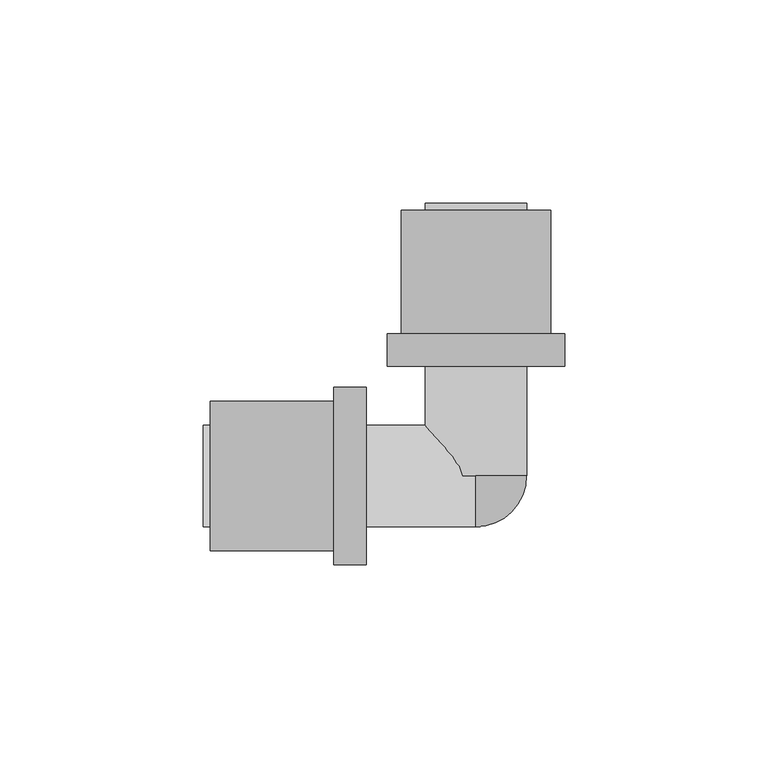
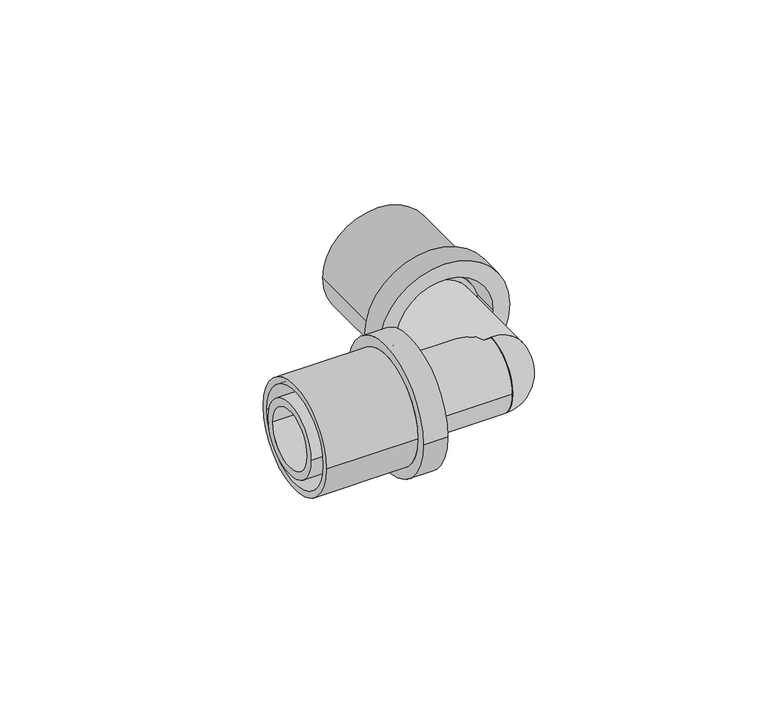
"""IFC4 building model written with IfcOpenShell, lengths in millimetres: pipe fitting geometry, FASTLOC_Corner EX+ : FSL C EX+ AT."""

import ifcopenshell
import ifcopenshell.guid

model = None  # the IFC model being written
_history = None  # IfcOwnerHistory: only IFC2X3 demands one
_inside = {}  # id of a spatial element -> (the spatial element, [elements in it])
_under = {}  # id of a project, library or spatial element -> (it, [spatial elements below it])
_declared = {}  # id of a project -> (the project, [libraries it declares])
_typed = {}  # id of a type object -> (the type object, [elements of that type])
_made_of = {}  # id of a material, layer set ... -> (it, [elements and type objects made of it])


def new_model(schema):
    """Start an empty IFC model of exactly this schema.

    Asked for "IFC4X3", IfcOpenShell would pick the latest addendum, in which some entities
    have other attributes; the version numbers below select the first issue.
    IFC2X3 requires an IfcOwnerHistory on every rooted entity: one is made here for all.
    """
    global model, _history
    if schema == "IFC4X3":
        model = ifcopenshell.file(schema_version=(4, 3, 0, 0))
    else:
        model = ifcopenshell.file(schema=schema)
    _inside.clear()
    _under.clear()
    _declared.clear()
    _typed.clear()
    _made_of.clear()
    _history = None
    if model.schema == "IFC2X3":
        org = make("IfcOrganization", Name="unknown")
        user = make(
            "IfcPersonAndOrganization",
            ThePerson=make("IfcPerson", FamilyName="unknown"),
            TheOrganization=org,
        )
        app = make(
            "IfcApplication",
            ApplicationDeveloper=org,
            Version="unknown",
            ApplicationFullName="unknown",
            ApplicationIdentifier="unknown",
        )
        _history = make(
            "IfcOwnerHistory",
            OwningUser=user,
            OwningApplication=app,
            ChangeAction="ADDED",
            CreationDate=0,
        )
    return model


def make(cls, **values):
    """One entity of the class cls with the attributes given. An attribute that is None is left unset."""
    return model.create_entity(
        cls, **{name: value for name, value in values.items() if value is not None}
    )


def rooted(cls, **values):
    """An entity with a GlobalId (a new one), such as an element, a storey or a relation."""
    return make(cls, GlobalId=ifcopenshell.guid.new(), OwnerHistory=_history, **values)


def si_unit(unit_type, name, prefix=None):
    """IfcSIUnit, for example si_unit("LENGTHUNIT", "METRE", prefix="MILLI")."""
    return make("IfcSIUnit", UnitType=unit_type, Prefix=prefix, Name=name)


def assignment(units):
    """IfcUnitAssignment: the units of a project."""
    return None if units is None else make("IfcUnitAssignment", Units=units)


def point(xyz):
    """IfcCartesianPoint."""
    return None if xyz is None else make("IfcCartesianPoint", Coordinates=xyz)


def direction(xyz):
    """IfcDirection."""
    return None if xyz is None else make("IfcDirection", DirectionRatios=xyz)


def frame(location, z_axis=None, x_axis=None):
    """IfcAxis2Placement3D, a coordinate frame: its origin and axes. An axis left out is left unset."""
    return make(
        "IfcAxis2Placement3D",
        Location=point(location),
        Axis=direction(z_axis),
        RefDirection=direction(x_axis),
    )


def origin():
    """The frame at (0, 0, 0) with its axes left unset."""
    return frame((0.0, 0.0, 0.0))


def place(relative_to, where):
    """IfcLocalPlacement: puts the frame where relative to a parent placement (None: the world)."""
    return make(
        "IfcLocalPlacement", PlacementRelTo=relative_to, RelativePlacement=where
    )


def context(
    kind, dimensions, precision=None, world=None, true_north=None, identifier=None
):
    """IfcGeometricRepresentationContext, for example the 3D "Model" context."""
    return make(
        "IfcGeometricRepresentationContext",
        ContextIdentifier=identifier,
        ContextType=kind,
        CoordinateSpaceDimension=dimensions,
        Precision=precision,
        WorldCoordinateSystem=world,
        TrueNorth=true_north,
    )


def project(units=None, contexts=None):
    """IfcProject with its units and contexts."""
    return rooted(
        "IfcProject",
        Name="project",
        RepresentationContexts=contexts,
        UnitsInContext=assignment(units),
    )


def spatial(cls, under=None, at=None, **own):
    """A site, building, storey or space (cls), placed at a placement, below another one or the project."""
    s = rooted(cls, ObjectPlacement=at, **own)
    if under is not None:
        _under.setdefault(under.id(), (under, []))[1].append(s)
    return s


def polyline(points):
    """IfcPolyline through the points."""
    return make("IfcPolyline", Points=[point(p) for p in points])


def circle_curve(where, radius):
    """IfcCircle in the frame where."""
    return make("IfcCircle", Position=where, Radius=radius)


def ellipse_curve(where, semi_axis1, semi_axis2):
    """IfcEllipse in the frame where."""
    return make(
        "IfcEllipse", Position=where, SemiAxis1=semi_axis1, SemiAxis2=semi_axis2
    )


def trimmed(basis, trim1, trim2, sense, master):
    """IfcTrimmedCurve: the piece of a basis curve between two trims."""
    return make(
        "IfcTrimmedCurve",
        BasisCurve=basis,
        Trim1=trim1,
        Trim2=trim2,
        SenseAgreement=sense,
        MasterRepresentation=master,
    )


def shape(context_of_items, identifier, shape_type, items):
    """IfcShapeRepresentation: the items that make up one representation, for example the "Body"."""
    return make(
        "IfcShapeRepresentation",
        ContextOfItems=context_of_items,
        RepresentationIdentifier=identifier,
        RepresentationType=shape_type,
        Items=items,
    )


def source(mapping_origin, context_of_items, identifier, shape_type, items):
    """IfcRepresentationMap: a shape defined once, which mapped items show again and again."""
    return make(
        "IfcRepresentationMap",
        MappingOrigin=mapping_origin,
        MappedRepresentation=shape(context_of_items, identifier, shape_type, items),
    )


def transform(
    local_origin,
    x_axis=None,
    y_axis=None,
    z_axis=None,
    scale=None,
    scale2=None,
    scale3=None,
    uniform=True,
):
    """IfcCartesianTransformationOperator3D, or its non-uniform kind. x_axis, y_axis, z_axis: its Axis1, 2, 3."""
    if uniform:
        return make(
            "IfcCartesianTransformationOperator3D",
            Axis1=direction(x_axis),
            Axis2=direction(y_axis),
            LocalOrigin=point(local_origin),
            Scale=scale,
            Axis3=direction(z_axis),
        )
    return make(
        "IfcCartesianTransformationOperator3DnonUniform",
        Axis1=direction(x_axis),
        Axis2=direction(y_axis),
        LocalOrigin=point(local_origin),
        Scale=scale,
        Axis3=direction(z_axis),
        Scale2=scale2,
        Scale3=scale3,
    )


def mapped(mapping_source, mapping_target):
    """IfcMappedItem: shows the shape of a source again, moved by a transform."""
    return make(
        "IfcMappedItem", MappingSource=mapping_source, MappingTarget=mapping_target
    )


def made_of(thing, what):
    """Note that an element or type object is made of a material, layer set ...; save() writes the relation."""
    if what is not None:
        _made_of.setdefault(what.id(), (what, []))[1].append(thing)
    return thing


def element(
    cls,
    number,
    at=None,
    inside=None,
    cuts=None,
    type_object=None,
    material=None,
    context=None,
    identifier="Body",
    shape_type=None,
    held_by="IfcProductDefinitionShape",
    body=None,
    shapes=None,
    **own,
):
    """One element of the class cls, such as IfcWall. Its Tag is "e" and its number.

    at: its placement. inside: the storey or other place that contains it. cuts: it is an
    opening in that element (IfcRelVoidsElement). A single representation is given by context,
    identifier, shape_type and body (its items); several are given by shapes. held_by: the class
    of the entity that holds the representations. save() writes the other relations.
    """
    e = rooted(cls, Tag="e%d" % number, ObjectPlacement=at, **own)
    if body is not None:
        shapes = [shape(context, identifier, shape_type, body)]
    if shapes is not None:
        e.Representation = make(held_by, Representations=shapes)
    if inside is not None:
        _inside.setdefault(inside.id(), (inside, []))[1].append(e)
    if cuts is not None:
        rooted(
            "IfcRelVoidsElement", RelatingBuildingElement=cuts, RelatedOpeningElement=e
        )
    if type_object is not None:
        _typed.setdefault(type_object.id(), (type_object, []))[1].append(e)
    return made_of(e, material)


def aggregate(whole, parts):
    """IfcRelAggregates: a whole, such as a stair, and the parts it consists of."""
    return rooted("IfcRelAggregates", RelatingObject=whole, RelatedObjects=parts)


def save(model, path):
    """Write the relations noted so far, then the file.

    IfcRelAggregates (storeys below a building ...), IfcRelContainedInSpatialStructure (elements
    in a storey), IfcRelDefinesByType, IfcRelAssociatesMaterial and IfcRelDeclares: one each for
    every whole, place, type object, material and project.
    """
    for whole, parts in _under.values():
        aggregate(whole, parts)
    for where, things in _inside.values():
        rooted(
            "IfcRelContainedInSpatialStructure",
            RelatedElements=things,
            RelatingStructure=where,
        )
    for kind, things in _typed.values():
        rooted("IfcRelDefinesByType", RelatedObjects=things, RelatingType=kind)
    for what, things in _made_of.values():
        rooted("IfcRelAssociatesMaterial", RelatedObjects=things, RelatingMaterial=what)
    for by, libraries in _declared.values():
        rooted("IfcRelDeclares", RelatingContext=by, RelatedDefinitions=libraries)
    model.write(path)


def plane_surface(at):
    """IfcPlane: the flat surface through the origin of the frame at, square to its z axis."""
    return make("IfcPlane", Position=at)


def cylinder_surface(at, radius):
    """IfcCylindricalSurface: all points at the distance radius from the z axis of the frame at."""
    return make("IfcCylindricalSurface", Position=at, Radius=radius)


def revolved_surface(curve, axis_point, axis_direction):
    """IfcSurfaceOfRevolution: the curve turned about the line through axis_point along axis_direction."""
    return make(
        "IfcSurfaceOfRevolution",
        SweptCurve=make("IfcArbitraryOpenProfileDef", ProfileType="CURVE", Curve=curve),
        AxisPosition=make("IfcAxis1Placement", Location=point(axis_point), Axis=direction(axis_direction)),
    )


def advanced_brep(points, edges, surfaces, faces):
    """IfcAdvancedBrep: a solid bounded by faces that lie on surfaces and meet in shared edges.

    An edge is (start, end): straight between two places in points (the first is 0);
    or (start, end, curve); or (start, end, curve, False) where it runs against its curve.
    A face is (place in surfaces, loops), or (place, loops, False) where it looks against
    its surface's normal. A loop lists edges by number (the first is 1), with a minus sign
    where the edge is run from its end to its start. The first loop is the outer one.
    """
    corners = [point(p) for p in points]
    vertices = [make("IfcVertexPoint", VertexGeometry=c) for c in corners]
    made = []
    for start, end, *more in edges:
        made.append(
            make(
                "IfcEdgeCurve",
                EdgeStart=vertices[start],
                EdgeEnd=vertices[end],
                EdgeGeometry=more[0] if more else make("IfcPolyline", Points=[corners[start], corners[end]]),
                SameSense=more[1] if len(more) > 1 else True,
            )
        )
    hull = []
    for where, loops, *sense in faces:
        bounds = []
        for j, loop in enumerate(loops):
            ring = [make("IfcOrientedEdge", EdgeElement=made[abs(k) - 1], Orientation=k > 0) for k in loop]
            bounds.append(
                make(
                    "IfcFaceOuterBound" if j == 0 else "IfcFaceBound",
                    Bound=make("IfcEdgeLoop", EdgeList=ring),
                    Orientation=True,
                )
            )
        hull.append(make("IfcAdvancedFace", Bounds=bounds, FaceSurface=surfaces[where], SameSense=sense[0] if sense else True))
    return make("IfcAdvancedBrep", Outer=make("IfcClosedShell", CfsFaces=hull))


def pipe_fitting_a2f8d1bd(model_context):
    return source(origin(), model_context, "Body", "AdvancedBrep", [
        advanced_brep(
        [(-21.8, 35.0, 0.0), (21.8, 35.0, 0.0), (21.8, 27.0, 0.0), (-21.8, 27.0, 0.0), (-18.35, 65.3, 0.0), (18.35, 65.3, 0.0), (18.35, 35.0, 0.0), (-18.35, 35.0, 0.0), (-16.2, 27.0, 0.0), (16.2, 27.0, 0.0), (16.2, 65.3, 0.0), (-16.2, 65.3, 0.0)],
        [
            (0, 1, circle_curve(frame((0.0, 35.0, 0.0), z_axis=(0.0, -1.0, 0.0), x_axis=(1.0, 0.0, 0.0)), 21.8)),
            (1, 2),
            (2, 3, circle_curve(frame((0.0, 27.0, 0.0), z_axis=(0.0, 1.0, 0.0), x_axis=(1.0, 0.0, 0.0)), 21.8)),
            (3, 0),
            (4, 5, circle_curve(frame((0.0, 65.3, 0.0), z_axis=(0.0, -1.0, 0.0), x_axis=(1.0, 0.0, 0.0)), 18.35)),
            (5, 6),
            (6, 7, circle_curve(frame((0.0, 35.0, 0.0), z_axis=(0.0, 1.0, 0.0), x_axis=(1.0, 0.0, 0.0)), 18.35)),
            (7, 4),
            (8, 9, circle_curve(frame((0.0, 27.0, 0.0), z_axis=(0.0, -1.0, 0.0), x_axis=(1.0, 0.0, 0.0)), 16.2)),
            (9, 10),
            (10, 11, circle_curve(frame((0.0, 65.3, 0.0), z_axis=(0.0, 1.0, 0.0), x_axis=(1.0, 0.0, 0.0)), 16.2)),
            (11, 8),
            (1, 0, circle_curve(frame((0.0, 35.0, 0.0), z_axis=(0.0, -1.0, 0.0), x_axis=(-1.0, 0.0, 0.0)), 21.8)),
            (3, 2, circle_curve(frame((0.0, 27.0, 0.0), z_axis=(0.0, 1.0, 0.0), x_axis=(-1.0, 0.0, 0.0)), 21.8)),
            (6, 7, circle_curve(frame((0.0, 35.0, 0.0), z_axis=(0.0, -1.0, 0.0), x_axis=(-1.0, 0.0, 0.0)), 18.35)),
            (5, 4, circle_curve(frame((0.0, 65.3, 0.0), z_axis=(0.0, -1.0, 0.0), x_axis=(-1.0, 0.0, 0.0)), 18.35)),
            (10, 11, circle_curve(frame((0.0, 65.3, 0.0), z_axis=(0.0, -1.0, 0.0), x_axis=(-1.0, 0.0, 0.0)), 16.2)),
            (9, 8, circle_curve(frame((0.0, 27.0, 0.0), z_axis=(0.0, -1.0, 0.0), x_axis=(-1.0, 0.0, 0.0)), 16.2)),
        ],
        [
            cylinder_surface(frame((0.0, 27.0, 0.0), z_axis=(0.0, 1.0, 0.0), x_axis=(1.0, 0.0, 0.0)), 21.8),
            cylinder_surface(frame((0.0, 27.0, 0.0), z_axis=(0.0, 1.0, 0.0), x_axis=(1.0, 0.0, 0.0)), 18.35),
            revolved_surface(polyline([(16.2, 65.3, 0.0), (16.2, 27.0, 0.0)]), (0.0, 27.0, 0.0), (0.0, 1.0, 0.0)),
            cylinder_surface(frame((0.0, 27.0, 0.0), z_axis=(0.0, 1.0, 0.0), x_axis=(-1.0, 0.0, 0.0)), 21.8),
            plane_surface(frame((0.0, 35.0, 0.0), z_axis=(0.0, 1.0, 0.0), x_axis=(-1.0, 0.0, 0.0))),
            cylinder_surface(frame((0.0, 27.0, 0.0), z_axis=(0.0, 1.0, 0.0), x_axis=(-1.0, 0.0, 0.0)), 18.35),
            plane_surface(frame((0.0, 65.3, 0.0), z_axis=(0.0, 1.0, 0.0), x_axis=(-1.0, 0.0, 0.0))),
            revolved_surface(polyline([(-16.2, 65.3, 0.0), (-16.2, 27.0, 0.0)]), (0.0, 27.0, 0.0), (0.0, 1.0, 0.0)),
            plane_surface(frame((0.0, 27.0, 0.0), z_axis=(0.0, -1.0, 0.0), x_axis=(-1.0, 0.0, 0.0))),
        ],
        [
            (0, [[1, 2, 3, 4]]),
            (1, [[5, 6, 7, 8]]),
            (2, [[9, 10, 11, 12]]),
            (3, [[13, -4, 14, -2]]),
            (4, [[-13, -1], [15, -7]]),
            (5, [[16, -8, -15, -6]]),
            (6, [[-16, -5], [17, -11]]),
            (7, [[18, -12, -17, -10]]),
            (8, [[-14, -3], [-18, -9]]),
        ],
    ),
        advanced_brep(
        [(-35.0, -21.8, 0.0), (-35.0, 21.8, 0.0), (-27.0, 21.8, 0.0), (-27.0, -21.8, 0.0), (-65.3, -18.35, 0.0), (-65.3, 18.35, 0.0), (-35.0, 18.35, 0.0), (-35.0, -18.35, 0.0), (-27.0, -16.2, 0.0), (-27.0, 16.2, 0.0), (-65.3, 16.2, 0.0), (-65.3, -16.2, 0.0)],
        [
            (0, 1, circle_curve(frame((-35.0, 0.0, 0.0), z_axis=(1.0, 0.0, 0.0), x_axis=(0.0, 1.0, 0.0)), 21.8)),
            (1, 2),
            (2, 3, circle_curve(frame((-27.0, 0.0, 0.0), z_axis=(-1.0, 0.0, 0.0), x_axis=(0.0, 1.0, 0.0)), 21.8)),
            (3, 0),
            (4, 5, circle_curve(frame((-65.3, 0.0, 0.0), z_axis=(1.0, 0.0, 0.0), x_axis=(0.0, 1.0, 0.0)), 18.35)),
            (5, 6),
            (6, 7, circle_curve(frame((-35.0, 0.0, 0.0), z_axis=(-1.0, 0.0, 0.0), x_axis=(0.0, 1.0, 0.0)), 18.35)),
            (7, 4),
            (8, 9, circle_curve(frame((-27.0, 0.0, 0.0), z_axis=(1.0, 0.0, 0.0), x_axis=(0.0, 1.0, 0.0)), 16.2)),
            (9, 10),
            (10, 11, circle_curve(frame((-65.3, 0.0, 0.0), z_axis=(-1.0, 0.0, 0.0), x_axis=(0.0, 1.0, 0.0)), 16.2)),
            (11, 8),
            (1, 0, circle_curve(frame((-35.0, 0.0, 0.0), z_axis=(1.0, 0.0, 0.0), x_axis=(0.0, -1.0, 0.0)), 21.8)),
            (3, 2, circle_curve(frame((-27.0, 0.0, 0.0), z_axis=(-1.0, 0.0, 0.0), x_axis=(0.0, -1.0, 0.0)), 21.8)),
            (6, 7, circle_curve(frame((-35.0, 0.0, 0.0), z_axis=(1.0, 0.0, 0.0), x_axis=(0.0, -1.0, 0.0)), 18.35)),
            (5, 4, circle_curve(frame((-65.3, 0.0, 0.0), z_axis=(1.0, 0.0, 0.0), x_axis=(0.0, -1.0, 0.0)), 18.35)),
            (10, 11, circle_curve(frame((-65.3, 0.0, 0.0), z_axis=(1.0, 0.0, 0.0), x_axis=(0.0, -1.0, 0.0)), 16.2)),
            (9, 8, circle_curve(frame((-27.0, 0.0, 0.0), z_axis=(1.0, 0.0, 0.0), x_axis=(0.0, -1.0, 0.0)), 16.2)),
        ],
        [
            cylinder_surface(frame((-27.0, 0.0, 0.0), z_axis=(-1.0, 0.0, 0.0), x_axis=(0.0, 1.0, 0.0)), 21.8),
            cylinder_surface(frame((-27.0, 0.0, 0.0), z_axis=(-1.0, 0.0, 0.0), x_axis=(0.0, 1.0, 0.0)), 18.35),
            revolved_surface(polyline([(-65.3, 16.2, 0.0), (-27.0, 16.2, 0.0)]), (-27.0, 0.0, 0.0), (-1.0, 0.0, 0.0)),
            cylinder_surface(frame((-27.0, 0.0, 0.0), z_axis=(-1.0, 0.0, 0.0), x_axis=(0.0, -1.0, 0.0)), 21.8),
            plane_surface(frame((-35.0, 0.0, 0.0), z_axis=(-1.0, 0.0, 0.0), x_axis=(0.0, -1.0, 0.0))),
            cylinder_surface(frame((-27.0, 0.0, 0.0), z_axis=(-1.0, 0.0, 0.0), x_axis=(0.0, -1.0, 0.0)), 18.35),
            plane_surface(frame((-65.3, 0.0, 0.0), z_axis=(-1.0, 0.0, 0.0), x_axis=(0.0, -1.0, 0.0))),
            revolved_surface(polyline([(-65.3, -16.2, 0.0), (-27.0, -16.2, 0.0)]), (-27.0, 0.0, 0.0), (-1.0, 0.0, 0.0)),
            plane_surface(frame((-27.0, 0.0, 0.0), z_axis=(1.0, 0.0, 0.0), x_axis=(0.0, -1.0, 0.0))),
        ],
        [
            (0, [[1, 2, 3, 4]]),
            (1, [[5, 6, 7, 8]]),
            (2, [[9, 10, 11, 12]]),
            (3, [[13, -4, 14, -2]]),
            (4, [[-13, -1], [15, -7]]),
            (5, [[16, -8, -15, -6]]),
            (6, [[-16, -5], [17, -11]]),
            (7, [[18, -12, -17, -10]]),
            (8, [[-14, -3], [-18, -9]]),
        ],
    ),
        advanced_brep(
        [(0.0, 0.0, 12.5), (0.0, 0.0, 0.0), (0.0, -12.5, 0.0), (0.0, 0.0, -12.5)],
        [
            (0, 1),
            (1, 2),
            (2, 0, circle_curve(frame((0.0, 0.0, 0.0), z_axis=(-1.0, 0.0, 0.0), x_axis=(0.0, 0.0, 1.0)), 12.5)),
            (3, 2, circle_curve(frame((0.0, 0.0, 0.0), z_axis=(-1.0, 0.0, 0.0), x_axis=(0.0, 0.0, -1.0)), 12.5)),
            (1, 3),
            (0, 3, circle_curve(frame((0.0, 0.0, 0.0), z_axis=(0.0, 1.0, 0.0), x_axis=(0.0, 0.0, 1.0)), 12.5)),
        ],
        [
            plane_surface(frame((0.0, 0.0, 0.0), z_axis=(-1.0, 0.0, 0.0), x_axis=(0.0, 0.0, 1.0))),
            plane_surface(frame((0.0, 0.0, 0.0), z_axis=(-1.0, 0.0, 0.0), x_axis=(0.0, 0.0, -1.0))),
            plane_surface(frame((0.0, 0.0, 0.0), z_axis=(0.0, 1.0, 0.0), x_axis=(0.0, 0.0, 1.0))),
            revolved_surface(trimmed(ellipse_curve(frame((0.0, 0.0, 0.0), z_axis=(-1.0, 0.0, 0.0), x_axis=(0.0, 0.0, 1.0)), 12.5, 12.5), [point((0.0, -12.5, 0.0))], [point((0.0, 0.0, 12.5))], True, "CARTESIAN"), (0.0, 0.0, 0.0), (0.0, 1.0, 0.0)),
        ],
        [
            (0, [[1, 2, 3]]),
            (1, [[4, -2, 5]]),
            (2, [[-1, 6, -5]]),
            (3, [[-6, -3, -4]]),
        ],
    ),
        advanced_brep(
        [(9.85, 67.0, 0.0), (-9.85, 67.0, 0.0), (-9.85, 0.0, 0.0), (9.85, 0.0, 0.0), (12.5, 35.0, 0.0), (-12.5, 35.0, 0.0), (-12.5, 67.0, 0.0), (12.5, 67.0, 0.0), (14.1, 32.0, 0.0), (-14.1, 32.0, 0.0), (-14.1, 35.0, 0.0), (14.1, 35.0, 0.0), (12.5, 0.0, 0.0), (-12.5, 0.0, 0.0), (-12.5, 32.0, 0.0), (12.5, 32.0, 0.0)],
        [
            (0, 1, circle_curve(frame((0.0, 67.0, 0.0), z_axis=(0.0, 1.0, 0.0), x_axis=(-1.0, 0.0, 0.0)), 9.85)),
            (1, 2),
            (2, 3, circle_curve(frame((0.0, 0.0, 0.0), z_axis=(0.0, -1.0, 0.0), x_axis=(-1.0, 0.0, 0.0)), 9.85)),
            (3, 0),
            (4, 5, circle_curve(frame((0.0, 35.0, 0.0), z_axis=(0.0, 1.0, 0.0), x_axis=(-1.0, 0.0, 0.0)), 12.5)),
            (5, 6),
            (6, 7, circle_curve(frame((0.0, 67.0, 0.0), z_axis=(0.0, -1.0, 0.0), x_axis=(-1.0, 0.0, 0.0)), 12.5)),
            (7, 4),
            (8, 9, circle_curve(frame((0.0, 32.0, 0.0), z_axis=(0.0, 1.0, 0.0), x_axis=(-1.0, 0.0, 0.0)), 14.1)),
            (9, 10),
            (10, 11, circle_curve(frame((0.0, 35.0, 0.0), z_axis=(0.0, -1.0, 0.0), x_axis=(-1.0, 0.0, 0.0)), 14.1)),
            (11, 8),
            (12, 13, circle_curve(frame((0.0, 0.0, 0.0), z_axis=(0.0, 1.0, 0.0), x_axis=(-1.0, 0.0, 0.0)), 12.5)),
            (13, 14),
            (14, 15, circle_curve(frame((0.0, 32.0, 0.0), z_axis=(0.0, -1.0, 0.0), x_axis=(-1.0, 0.0, 0.0)), 12.5)),
            (15, 12),
            (1, 0, circle_curve(frame((0.0, 67.0, 0.0), z_axis=(0.0, 1.0, 0.0), x_axis=(1.0, 0.0, 0.0)), 9.85)),
            (3, 2, circle_curve(frame((0.0, 0.0, 0.0), z_axis=(0.0, -1.0, 0.0), x_axis=(1.0, 0.0, 0.0)), 9.85)),
            (6, 7, circle_curve(frame((0.0, 67.0, 0.0), z_axis=(0.0, 1.0, 0.0), x_axis=(1.0, 0.0, 0.0)), 12.5)),
            (5, 4, circle_curve(frame((0.0, 35.0, 0.0), z_axis=(0.0, 1.0, 0.0), x_axis=(1.0, 0.0, 0.0)), 12.5)),
            (10, 11, circle_curve(frame((0.0, 35.0, 0.0), z_axis=(0.0, 1.0, 0.0), x_axis=(1.0, 0.0, 0.0)), 14.1)),
            (9, 8, circle_curve(frame((0.0, 32.0, 0.0), z_axis=(0.0, 1.0, 0.0), x_axis=(1.0, 0.0, 0.0)), 14.1)),
            (14, 15, circle_curve(frame((0.0, 32.0, 0.0), z_axis=(0.0, 1.0, 0.0), x_axis=(1.0, 0.0, 0.0)), 12.5)),
            (13, 12, circle_curve(frame((0.0, 0.0, 0.0), z_axis=(0.0, 1.0, 0.0), x_axis=(1.0, 0.0, 0.0)), 12.5)),
        ],
        [
            revolved_surface(polyline([(-9.85, 0.0, 0.0), (-9.85, 67.0, 0.0)]), (0.0, 0.0, 0.0), (0.0, -1.0, 0.0)),
            cylinder_surface(frame((0.0, 0.0, 0.0), z_axis=(0.0, -1.0, 0.0), x_axis=(-1.0, 0.0, 0.0)), 12.5),
            cylinder_surface(frame((0.0, 0.0, 0.0), z_axis=(0.0, -1.0, 0.0), x_axis=(-1.0, 0.0, 0.0)), 14.1),
            revolved_surface(polyline([(9.85, 0.0, 0.0), (9.85, 67.0, 0.0)]), (0.0, 0.0, 0.0), (0.0, -1.0, 0.0)),
            plane_surface(frame((0.0, 67.0, 0.0), z_axis=(0.0, 1.0, 0.0), x_axis=(1.0, 0.0, 0.0))),
            cylinder_surface(frame((0.0, 0.0, 0.0), z_axis=(0.0, -1.0, 0.0), x_axis=(1.0, 0.0, 0.0)), 12.5),
            plane_surface(frame((0.0, 35.0, 0.0), z_axis=(0.0, 1.0, 0.0), x_axis=(1.0, 0.0, 0.0))),
            cylinder_surface(frame((0.0, 0.0, 0.0), z_axis=(0.0, -1.0, 0.0), x_axis=(1.0, 0.0, 0.0)), 14.1),
            plane_surface(frame((0.0, 32.0, 0.0), z_axis=(0.0, -1.0, 0.0), x_axis=(1.0, 0.0, 0.0))),
            plane_surface(frame((0.0, 0.0, 0.0), z_axis=(0.0, -1.0, 0.0), x_axis=(1.0, 0.0, 0.0))),
        ],
        [
            (0, [[1, 2, 3, 4]]),
            (1, [[5, 6, 7, 8]]),
            (2, [[9, 10, 11, 12]]),
            (1, [[13, 14, 15, 16]]),
            (3, [[17, -4, 18, -2]]),
            (4, [[19, -7], [-17, -1]]),
            (5, [[20, -8, -19, -6]]),
            (6, [[21, -11], [-20, -5]]),
            (7, [[22, -12, -21, -10]]),
            (8, [[-22, -9], [23, -15]]),
            (5, [[24, -16, -23, -14]]),
            (9, [[-24, -13], [-18, -3]]),
        ],
    ),
        advanced_brep(
        [(0.0, 12.5, 0.0), (0.0, -12.5, 0.0), (-32.0, -12.5, 0.0), (-32.0, 12.5, 0.0), (-32.0, 14.1, 0.0), (-32.0, -14.1, 0.0), (-35.0, -14.1, 0.0), (-35.0, 14.1, 0.0), (-35.0, 12.5, 0.0), (-35.0, -12.5, 0.0), (-67.0, -12.5, 0.0), (-67.0, 12.5, 0.0), (-67.0, 9.85, 0.0), (-67.0, -9.85, 0.0), (0.0, -9.85, 0.0), (0.0, 9.85, 0.0)],
        [
            (0, 1, circle_curve(frame((0.0, 0.0, 0.0), z_axis=(-1.0, 0.0, 0.0), x_axis=(0.0, -1.0, 0.0)), 12.5)),
            (1, 2),
            (2, 3, circle_curve(frame((-32.0, 0.0, 0.0), z_axis=(1.0, 0.0, 0.0), x_axis=(0.0, -1.0, 0.0)), 12.5)),
            (3, 0),
            (4, 5, circle_curve(frame((-32.0, 0.0, 0.0), z_axis=(-1.0, 0.0, 0.0), x_axis=(0.0, -1.0, 0.0)), 14.1)),
            (5, 6),
            (6, 7, circle_curve(frame((-35.0, 0.0, 0.0), z_axis=(1.0, 0.0, 0.0), x_axis=(0.0, -1.0, 0.0)), 14.1)),
            (7, 4),
            (8, 9, circle_curve(frame((-35.0, 0.0, 0.0), z_axis=(-1.0, 0.0, 0.0), x_axis=(0.0, -1.0, 0.0)), 12.5)),
            (9, 10),
            (10, 11, circle_curve(frame((-67.0, 0.0, 0.0), z_axis=(1.0, 0.0, 0.0), x_axis=(0.0, -1.0, 0.0)), 12.5)),
            (11, 8),
            (12, 13, circle_curve(frame((-67.0, 0.0, 0.0), z_axis=(-1.0, 0.0, 0.0), x_axis=(0.0, -1.0, 0.0)), 9.85)),
            (13, 14),
            (14, 15, circle_curve(frame((0.0, 0.0, 0.0), z_axis=(1.0, 0.0, 0.0), x_axis=(0.0, -1.0, 0.0)), 9.85)),
            (15, 12),
            (0, 1, circle_curve(frame((0.0, 0.0, 0.0), z_axis=(1.0, 0.0, 0.0), x_axis=(0.0, 1.0, 0.0)), 12.5)),
            (14, 15, circle_curve(frame((0.0, 0.0, 0.0), z_axis=(-1.0, 0.0, 0.0), x_axis=(0.0, 1.0, 0.0)), 9.85)),
            (3, 2, circle_curve(frame((-32.0, 0.0, 0.0), z_axis=(1.0, 0.0, 0.0), x_axis=(0.0, 1.0, 0.0)), 12.5)),
            (4, 5, circle_curve(frame((-32.0, 0.0, 0.0), z_axis=(1.0, 0.0, 0.0), x_axis=(0.0, 1.0, 0.0)), 14.1)),
            (7, 6, circle_curve(frame((-35.0, 0.0, 0.0), z_axis=(1.0, 0.0, 0.0), x_axis=(0.0, 1.0, 0.0)), 14.1)),
            (8, 9, circle_curve(frame((-35.0, 0.0, 0.0), z_axis=(1.0, 0.0, 0.0), x_axis=(0.0, 1.0, 0.0)), 12.5)),
            (11, 10, circle_curve(frame((-67.0, 0.0, 0.0), z_axis=(1.0, 0.0, 0.0), x_axis=(0.0, 1.0, 0.0)), 12.5)),
            (12, 13, circle_curve(frame((-67.0, 0.0, 0.0), z_axis=(1.0, 0.0, 0.0), x_axis=(0.0, 1.0, 0.0)), 9.85)),
        ],
        [
            cylinder_surface(frame((0.0, 0.0, 0.0), z_axis=(1.0, 0.0, 0.0), x_axis=(0.0, -1.0, 0.0)), 12.5),
            cylinder_surface(frame((0.0, 0.0, 0.0), z_axis=(1.0, 0.0, 0.0), x_axis=(0.0, -1.0, 0.0)), 14.1),
            revolved_surface(polyline([(0.0, -9.85, 0.0), (-67.0, -9.85, 0.0)]), (0.0, 0.0, 0.0), (1.0, 0.0, 0.0)),
            plane_surface(frame((0.0, 0.0, 0.0), z_axis=(1.0, 0.0, 0.0), x_axis=(0.0, 1.0, 0.0))),
            cylinder_surface(frame((0.0, 0.0, 0.0), z_axis=(1.0, 0.0, 0.0), x_axis=(0.0, 1.0, 0.0)), 12.5),
            plane_surface(frame((-32.0, 0.0, 0.0), z_axis=(1.0, 0.0, 0.0), x_axis=(0.0, 1.0, 0.0))),
            cylinder_surface(frame((0.0, 0.0, 0.0), z_axis=(1.0, 0.0, 0.0), x_axis=(0.0, 1.0, 0.0)), 14.1),
            plane_surface(frame((-35.0, 0.0, 0.0), z_axis=(-1.0, 0.0, 0.0), x_axis=(0.0, 1.0, 0.0))),
            plane_surface(frame((-67.0, 0.0, 0.0), z_axis=(-1.0, 0.0, 0.0), x_axis=(0.0, 1.0, 0.0))),
            revolved_surface(polyline([(0.0, 9.85, 0.0), (-67.0, 9.85, 0.0)]), (0.0, 0.0, 0.0), (1.0, 0.0, 0.0)),
        ],
        [
            (0, [[1, 2, 3, 4]]),
            (1, [[5, 6, 7, 8]]),
            (0, [[9, 10, 11, 12]]),
            (2, [[13, 14, 15, 16]]),
            (3, [[17, -1], [18, -15]]),
            (4, [[-17, -4, 19, -2]]),
            (5, [[20, -5], [-19, -3]]),
            (6, [[-20, -8, 21, -6]]),
            (7, [[-21, -7], [22, -9]]),
            (4, [[-22, -12, 23, -10]]),
            (8, [[-23, -11], [24, -13]]),
            (9, [[-24, -16, -18, -14]]),
        ],
    ),
    ])


if __name__ == "__main__":
    model = new_model("IFC4")
    model_context = context("Model", 3, world=origin())
    ifc_project = project(units=[si_unit("LENGTHUNIT", "METRE", prefix="MILLI")], contexts=[model_context])
    site = spatial("IfcSite", under=ifc_project)
    building = spatial("IfcBuilding", under=site)
    placement = place(None, origin())
    pipe_fitting_shape = pipe_fitting_a2f8d1bd(model_context)
    element("IfcPipeFitting", 1, ObjectType="FASTLOC_Corner EX+ : FSL C EX+ AT", at=placement, inside=building, context=model_context, shape_type="MappedRepresentation", body=[
        mapped(pipe_fitting_shape, transform((0.0, 0.0, 0.0), x_axis=(1.0, 0.0, 0.0), y_axis=(0.0, 1.0, 0.0), z_axis=(0.0, 0.0, 1.0))),
    ])
    save(model, "model.ifc")
